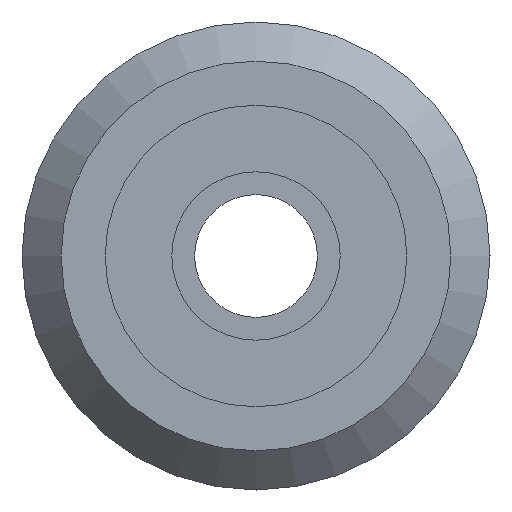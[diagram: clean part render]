
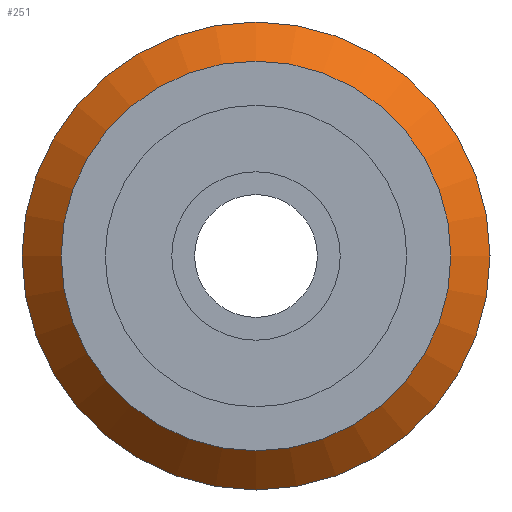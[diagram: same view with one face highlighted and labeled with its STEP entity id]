
A CAD part, front view. The second image highlights one B-rep face of the part: STEP entity #251.
In plain terms, the highlighted conical face has half-angle 45 degrees and reference radius 20.95 mm.
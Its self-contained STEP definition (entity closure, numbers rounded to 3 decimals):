
#217=CARTESIAN_POINT('',(0.0,-7.935,19.039));
#218=VERTEX_POINT('',#217);
#219=CARTESIAN_POINT('',(0.0,-7.935,0.0));
#220=DIRECTION('',(0.0,1.0,0.0));
#221=DIRECTION('',(0.0,0.0,1.0));
#222=AXIS2_PLACEMENT_3D('',#219,#220,#221);
#223=CIRCLE('',#222,19.039);
#224=EDGE_CURVE('',#218,#218,#223,.T.);
#232=CARTESIAN_POINT('',(0.0,-6.024,0.0));
#233=DIRECTION('',(0.0,1.0,0.0));
#234=DIRECTION('',(0.0,0.0,1.0));
#235=AXIS2_PLACEMENT_3D('',#232,#233,#234);
#236=CONICAL_SURFACE('',#235,20.95,45.);
#237=CARTESIAN_POINT('',(0.0,-4.114,22.86));
#238=VERTEX_POINT('',#237);
#239=CARTESIAN_POINT('',(0.0,-4.114,0.0));
#240=DIRECTION('',(0.0,1.0,0.0));
#241=DIRECTION('',(0.0,0.0,1.0));
#242=AXIS2_PLACEMENT_3D('',#239,#240,#241);
#243=CIRCLE('',#242,22.86);
#244=EDGE_CURVE('',#238,#238,#243,.T.);
#245=ORIENTED_EDGE('',*,*,#244,.F.);
#246=EDGE_LOOP('',(#245));
#247=FACE_OUTER_BOUND('',#246,.T.);
#248=ORIENTED_EDGE('',*,*,#224,.T.);
#249=EDGE_LOOP('',(#248));
#250=FACE_BOUND('',#249,.T.);
#251=ADVANCED_FACE('',(#247,#250),#236,.T.);
